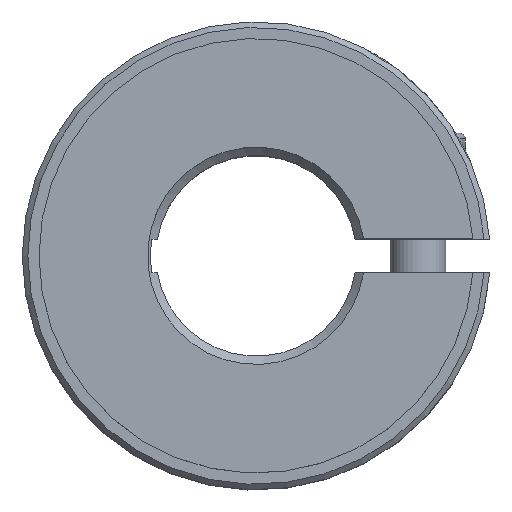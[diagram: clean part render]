
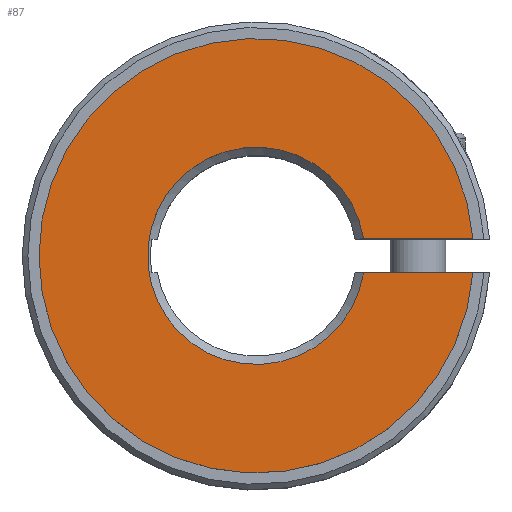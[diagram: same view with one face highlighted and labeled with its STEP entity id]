
A CAD part, top view. The second image highlights one B-rep face of the part: STEP entity #87.
In plain terms, the highlighted planar face has unit normal (0, 0, 1).
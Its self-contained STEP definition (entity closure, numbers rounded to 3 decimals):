
#87 = ADVANCED_FACE( '', ( #138 ), #139, .T. );
#138 = FACE_OUTER_BOUND( '', #221, .T. );
#139 = PLANE( '', #222 );
#221 = EDGE_LOOP( '', ( #379, #380, #381, #382 ) );
#222 = AXIS2_PLACEMENT_3D( '', #383, #384, #385 );
#379 = ORIENTED_EDGE( '', *, *, #599, .F. );
#380 = ORIENTED_EDGE( '', *, *, #587, .T. );
#381 = ORIENTED_EDGE( '', *, *, #600, .T. );
#382 = ORIENTED_EDGE( '', *, *, #592, .T. );
#383 = CARTESIAN_POINT( '', ( 0., 19.5, 10.5 ) );
#384 = DIRECTION( '', ( 0., 0., 1. ) );
#385 = DIRECTION( '', ( 1., 0., 0. ) );
#587 = EDGE_CURVE( '', #701, #699, #702, .T. );
#592 = EDGE_CURVE( '', #710, #708, #711, .T. );
#599 = EDGE_CURVE( '', #701, #708, #720, .T. );
#600 = EDGE_CURVE( '', #699, #710, #721, .T. );
#699 = VERTEX_POINT( '', #958 );
#701 = VERTEX_POINT( '', #961 );
#702 = LINE( '', #962, #963 );
#708 = VERTEX_POINT( '', #972 );
#710 = VERTEX_POINT( '', #975 );
#711 = LINE( '', #976, #977 );
#720 = CIRCLE( '', #991, 19.5 );
#721 = CIRCLE( '', #992, 9.75 );
#958 = CARTESIAN_POINT( '', ( 9.629, -1.53, 10.5 ) );
#961 = CARTESIAN_POINT( '', ( 19.44, -1.53, 10.5 ) );
#962 = CARTESIAN_POINT( '', ( 0., -1.53, 10.5 ) );
#963 = VECTOR( '', #1128, 1000. );
#972 = CARTESIAN_POINT( '', ( 19.44, 1.53, 10.5 ) );
#975 = CARTESIAN_POINT( '', ( 9.629, 1.53, 10.5 ) );
#976 = CARTESIAN_POINT( '', ( 0., 1.53, 10.5 ) );
#977 = VECTOR( '', #1133, 1000. );
#991 = AXIS2_PLACEMENT_3D( '', #1145, #1146, #1147 );
#992 = AXIS2_PLACEMENT_3D( '', #1148, #1149, #1150 );
#1128 = DIRECTION( '', ( -1., 0., 0. ) );
#1133 = DIRECTION( '', ( 1., 0., 0. ) );
#1145 = CARTESIAN_POINT( '', ( 0., 0., 10.5 ) );
#1146 = DIRECTION( '', ( 0., 0., -1. ) );
#1147 = DIRECTION( '', ( -1., 0., 0. ) );
#1148 = CARTESIAN_POINT( '', ( 0., 0., 10.5 ) );
#1149 = DIRECTION( '', ( 0., 0., -1. ) );
#1150 = DIRECTION( '', ( -1., 0., 0. ) );
